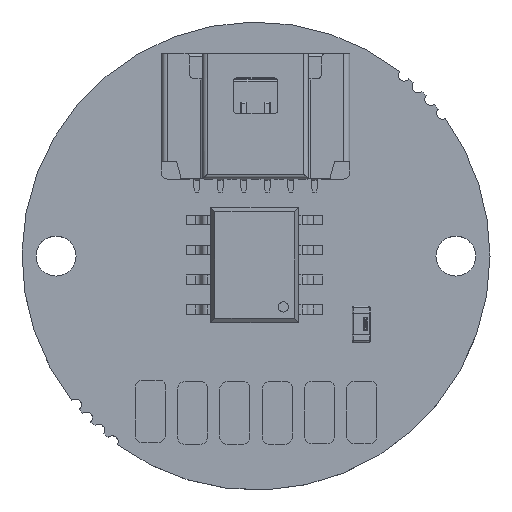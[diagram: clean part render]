
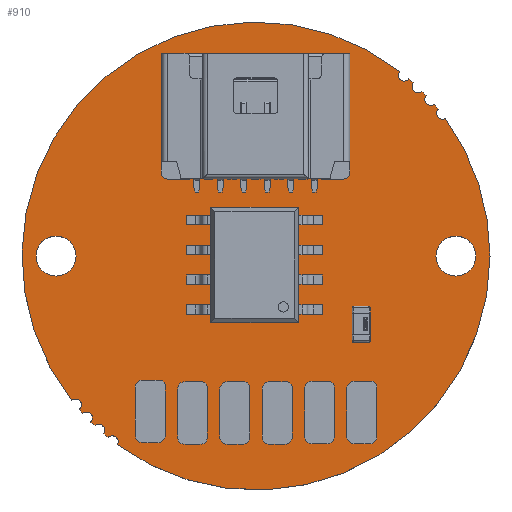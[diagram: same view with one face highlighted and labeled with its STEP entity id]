
A CAD part, top view. The second image highlights one B-rep face of the part: STEP entity #910.
In plain terms, the highlighted planar face has unit normal (0, 0, 1).
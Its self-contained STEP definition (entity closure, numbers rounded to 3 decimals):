
#123 = VERTEX_POINT('',#124);
#124 = CARTESIAN_POINT('',(20.11,-10.16,0.));
#130 = EDGE_CURVE('',#123,#131,#133,.T.);
#131 = VERTEX_POINT('',#132);
#132 = CARTESIAN_POINT('',(18.206,-4.307,0.));
#133 = CIRCLE('',#134,9.95);
#134 = AXIS2_PLACEMENT_3D('',#135,#136,#137);
#135 = CARTESIAN_POINT('',(10.16,-10.16,0.));
#136 = DIRECTION('',(0.,0.,1.));
#137 = DIRECTION('',(1.,0.,0.));
#165 = VERTEX_POINT('',#166);
#166 = CARTESIAN_POINT('',(17.906,-3.915,0.));
#172 = EDGE_CURVE('',#165,#131,#173,.T.);
#173 = CIRCLE('',#174,0.25);
#174 = AXIS2_PLACEMENT_3D('',#175,#176,#177);
#175 = CARTESIAN_POINT('',(18.088,-4.087,0.));
#176 = DIRECTION('',(0.,0.,1.));
#177 = DIRECTION('',(1.,0.,0.));
#196 = EDGE_CURVE('',#165,#197,#199,.T.);
#197 = VERTEX_POINT('',#198);
#198 = CARTESIAN_POINT('',(17.731,-3.704,0.));
#199 = CIRCLE('',#200,9.95);
#200 = AXIS2_PLACEMENT_3D('',#201,#202,#203);
#201 = CARTESIAN_POINT('',(10.16,-10.16,0.));
#202 = DIRECTION('',(0.,0.,1.));
#203 = DIRECTION('',(1.,0.,0.));
#231 = VERTEX_POINT('',#232);
#232 = CARTESIAN_POINT('',(17.399,-3.334,0.));
#238 = EDGE_CURVE('',#231,#197,#239,.T.);
#239 = CIRCLE('',#240,0.25);
#240 = AXIS2_PLACEMENT_3D('',#241,#242,#243);
#241 = CARTESIAN_POINT('',(17.586,-3.5,0.));
#242 = DIRECTION('',(0.,0.,1.));
#243 = DIRECTION('',(1.,0.,0.));
#262 = EDGE_CURVE('',#231,#263,#265,.T.);
#263 = VERTEX_POINT('',#264);
#264 = CARTESIAN_POINT('',(17.215,-3.144,0.));
#265 = CIRCLE('',#266,9.95);
#266 = AXIS2_PLACEMENT_3D('',#267,#268,#269);
#267 = CARTESIAN_POINT('',(10.16,-10.16,0.));
#268 = DIRECTION('',(0.,0.,1.));
#269 = DIRECTION('',(1.,0.,0.));
#297 = VERTEX_POINT('',#298);
#298 = CARTESIAN_POINT('',(16.855,-2.799,0.));
#304 = EDGE_CURVE('',#297,#263,#305,.T.);
#305 = CIRCLE('',#306,0.25);
#306 = AXIS2_PLACEMENT_3D('',#307,#308,#309);
#307 = CARTESIAN_POINT('',(17.046,-2.96,0.));
#308 = DIRECTION('',(0.,0.,1.));
#309 = DIRECTION('',(1.,0.,0.));
#328 = EDGE_CURVE('',#297,#329,#331,.T.);
#329 = VERTEX_POINT('',#330);
#330 = CARTESIAN_POINT('',(16.664,-2.63,0.));
#331 = CIRCLE('',#332,9.95);
#332 = AXIS2_PLACEMENT_3D('',#333,#334,#335);
#333 = CARTESIAN_POINT('',(10.16,-10.16,0.));
#334 = DIRECTION('',(0.,0.,1.));
#335 = DIRECTION('',(1.,0.,0.));
#363 = VERTEX_POINT('',#364);
#364 = CARTESIAN_POINT('',(16.277,-2.312,0.));
#370 = EDGE_CURVE('',#363,#329,#371,.T.);
#371 = CIRCLE('',#372,0.25);
#372 = AXIS2_PLACEMENT_3D('',#373,#374,#375);
#373 = CARTESIAN_POINT('',(16.471,-2.47,0.));
#374 = DIRECTION('',(0.,0.,1.));
#375 = DIRECTION('',(1.,0.,0.));
#394 = EDGE_CURVE('',#363,#395,#397,.T.);
#395 = VERTEX_POINT('',#396);
#396 = CARTESIAN_POINT('',(2.328,-16.297,0.));
#397 = CIRCLE('',#398,9.95);
#398 = AXIS2_PLACEMENT_3D('',#399,#400,#401);
#399 = CARTESIAN_POINT('',(10.16,-10.16,0.));
#400 = DIRECTION('',(0.,0.,1.));
#401 = DIRECTION('',(1.,0.,0.));
#429 = VERTEX_POINT('',#430);
#430 = CARTESIAN_POINT('',(2.738,-16.489,0.));
#436 = EDGE_CURVE('',#429,#395,#437,.T.);
#437 = CIRCLE('',#438,0.25);
#438 = AXIS2_PLACEMENT_3D('',#439,#440,#441);
#439 = CARTESIAN_POINT('',(2.488,-16.489,0.));
#440 = DIRECTION('',(0.,0.,1.));
#441 = DIRECTION('',(1.,0.,0.));
#462 = VERTEX_POINT('',#463);
#463 = CARTESIAN_POINT('',(2.646,-16.682,0.));
#469 = EDGE_CURVE('',#462,#429,#470,.T.);
#470 = CIRCLE('',#471,0.25);
#471 = AXIS2_PLACEMENT_3D('',#472,#473,#474);
#472 = CARTESIAN_POINT('',(2.488,-16.489,0.));
#473 = DIRECTION('',(0.,0.,1.));
#474 = DIRECTION('',(1.,0.,0.));
#493 = EDGE_CURVE('',#462,#494,#496,.T.);
#494 = VERTEX_POINT('',#495);
#495 = CARTESIAN_POINT('',(2.799,-16.855,0.));
#496 = CIRCLE('',#497,9.95);
#497 = AXIS2_PLACEMENT_3D('',#498,#499,#500);
#498 = CARTESIAN_POINT('',(10.16,-10.16,0.));
#499 = DIRECTION('',(0.,0.,1.));
#500 = DIRECTION('',(1.,0.,0.));
#528 = VERTEX_POINT('',#529);
#529 = CARTESIAN_POINT('',(3.21,-17.046,0.));
#535 = EDGE_CURVE('',#528,#494,#536,.T.);
#536 = CIRCLE('',#537,0.25);
#537 = AXIS2_PLACEMENT_3D('',#538,#539,#540);
#538 = CARTESIAN_POINT('',(2.96,-17.046,0.));
#539 = DIRECTION('',(0.,0.,1.));
#540 = DIRECTION('',(1.,0.,0.));
#561 = VERTEX_POINT('',#562);
#562 = CARTESIAN_POINT('',(3.144,-17.215,0.));
#568 = EDGE_CURVE('',#561,#528,#569,.T.);
#569 = CIRCLE('',#570,0.25);
#570 = AXIS2_PLACEMENT_3D('',#571,#572,#573);
#571 = CARTESIAN_POINT('',(2.96,-17.046,0.));
#572 = DIRECTION('',(0.,0.,1.));
#573 = DIRECTION('',(1.,0.,0.));
#592 = EDGE_CURVE('',#561,#593,#595,.T.);
#593 = VERTEX_POINT('',#594);
#594 = CARTESIAN_POINT('',(3.316,-17.382,0.));
#595 = CIRCLE('',#596,9.95);
#596 = AXIS2_PLACEMENT_3D('',#597,#598,#599);
#597 = CARTESIAN_POINT('',(10.16,-10.16,0.));
#598 = DIRECTION('',(0.,0.,1.));
#599 = DIRECTION('',(1.,0.,0.));
#627 = VERTEX_POINT('',#628);
#628 = CARTESIAN_POINT('',(3.733,-17.568,0.));
#634 = EDGE_CURVE('',#627,#593,#635,.T.);
#635 = CIRCLE('',#636,0.25);
#636 = AXIS2_PLACEMENT_3D('',#637,#638,#639);
#637 = CARTESIAN_POINT('',(3.483,-17.568,0.));
#638 = DIRECTION('',(0.,0.,1.));
#639 = DIRECTION('',(1.,0.,0.));
#660 = VERTEX_POINT('',#661);
#661 = CARTESIAN_POINT('',(3.685,-17.715,0.));
#667 = EDGE_CURVE('',#660,#627,#668,.T.);
#668 = CIRCLE('',#669,0.25);
#669 = AXIS2_PLACEMENT_3D('',#670,#671,#672);
#670 = CARTESIAN_POINT('',(3.483,-17.568,0.));
#671 = DIRECTION('',(0.,0.,1.));
#672 = DIRECTION('',(1.,0.,0.));
#691 = EDGE_CURVE('',#660,#692,#694,.T.);
#692 = VERTEX_POINT('',#693);
#693 = CARTESIAN_POINT('',(3.876,-17.874,0.));
#694 = CIRCLE('',#695,9.95);
#695 = AXIS2_PLACEMENT_3D('',#696,#697,#698);
#696 = CARTESIAN_POINT('',(10.16,-10.16,0.));
#697 = DIRECTION('',(0.,0.,1.));
#698 = DIRECTION('',(1.,0.,0.));
#726 = VERTEX_POINT('',#727);
#727 = CARTESIAN_POINT('',(4.302,-18.052,0.));
#733 = EDGE_CURVE('',#726,#692,#734,.T.);
#734 = CIRCLE('',#735,0.25);
#735 = AXIS2_PLACEMENT_3D('',#736,#737,#738);
#736 = CARTESIAN_POINT('',(4.052,-18.052,0.));
#737 = DIRECTION('',(0.,0.,1.));
#738 = DIRECTION('',(1.,0.,0.));
#759 = VERTEX_POINT('',#760);
#760 = CARTESIAN_POINT('',(4.268,-18.178,0.));
#766 = EDGE_CURVE('',#759,#726,#767,.T.);
#767 = CIRCLE('',#768,0.25);
#768 = AXIS2_PLACEMENT_3D('',#769,#770,#771);
#769 = CARTESIAN_POINT('',(4.052,-18.052,0.));
#770 = DIRECTION('',(0.,0.,1.));
#771 = DIRECTION('',(1.,0.,0.));
#790 = EDGE_CURVE('',#759,#123,#791,.T.);
#791 = CIRCLE('',#792,9.95);
#792 = AXIS2_PLACEMENT_3D('',#793,#794,#795);
#793 = CARTESIAN_POINT('',(10.16,-10.16,0.));
#794 = DIRECTION('',(0.,0.,1.));
#795 = DIRECTION('',(1.,0.,0.));
#816 = VERTEX_POINT('',#817);
#817 = CARTESIAN_POINT('',(19.51,-10.16,0.));
#823 = EDGE_CURVE('',#816,#816,#824,.T.);
#824 = CIRCLE('',#825,0.85);
#825 = AXIS2_PLACEMENT_3D('',#826,#827,#828);
#826 = CARTESIAN_POINT('',(18.66,-10.16,0.));
#827 = DIRECTION('',(0.,0.,1.));
#828 = DIRECTION('',(1.,0.,0.));
#849 = VERTEX_POINT('',#850);
#850 = CARTESIAN_POINT('',(2.51,-10.16,0.));
#856 = EDGE_CURVE('',#849,#849,#857,.T.);
#857 = CIRCLE('',#858,0.85);
#858 = AXIS2_PLACEMENT_3D('',#859,#860,#861);
#859 = CARTESIAN_POINT('',(1.66,-10.16,0.));
#860 = DIRECTION('',(0.,0.,1.));
#861 = DIRECTION('',(1.,0.,0.));
#910 = ADVANCED_FACE('',(#911,#934,#937),#940,.F.);
#911 = FACE_BOUND('',#912,.F.);
#912 = EDGE_LOOP('',(#913,#914,#915,#916,#917,#918,#919,#920,#921,#922,
    #923,#924,#925,#926,#927,#928,#929,#930,#931,#932,#933));
#913 = ORIENTED_EDGE('',*,*,#130,.F.);
#914 = ORIENTED_EDGE('',*,*,#790,.F.);
#915 = ORIENTED_EDGE('',*,*,#766,.T.);
#916 = ORIENTED_EDGE('',*,*,#733,.T.);
#917 = ORIENTED_EDGE('',*,*,#691,.F.);
#918 = ORIENTED_EDGE('',*,*,#667,.T.);
#919 = ORIENTED_EDGE('',*,*,#634,.T.);
#920 = ORIENTED_EDGE('',*,*,#592,.F.);
#921 = ORIENTED_EDGE('',*,*,#568,.T.);
#922 = ORIENTED_EDGE('',*,*,#535,.T.);
#923 = ORIENTED_EDGE('',*,*,#493,.F.);
#924 = ORIENTED_EDGE('',*,*,#469,.T.);
#925 = ORIENTED_EDGE('',*,*,#436,.T.);
#926 = ORIENTED_EDGE('',*,*,#394,.F.);
#927 = ORIENTED_EDGE('',*,*,#370,.T.);
#928 = ORIENTED_EDGE('',*,*,#328,.F.);
#929 = ORIENTED_EDGE('',*,*,#304,.T.);
#930 = ORIENTED_EDGE('',*,*,#262,.F.);
#931 = ORIENTED_EDGE('',*,*,#238,.T.);
#932 = ORIENTED_EDGE('',*,*,#196,.F.);
#933 = ORIENTED_EDGE('',*,*,#172,.T.);
#934 = FACE_BOUND('',#935,.F.);
#935 = EDGE_LOOP('',(#936));
#936 = ORIENTED_EDGE('',*,*,#823,.T.);
#937 = FACE_BOUND('',#938,.F.);
#938 = EDGE_LOOP('',(#939));
#939 = ORIENTED_EDGE('',*,*,#856,.T.);
#940 = PLANE('',#941);
#941 = AXIS2_PLACEMENT_3D('',#942,#943,#944);
#942 = CARTESIAN_POINT('',(20.11,-10.16,0.));
#943 = DIRECTION('',(0.,0.,-1.));
#944 = DIRECTION('',(-1.,0.,0.));
